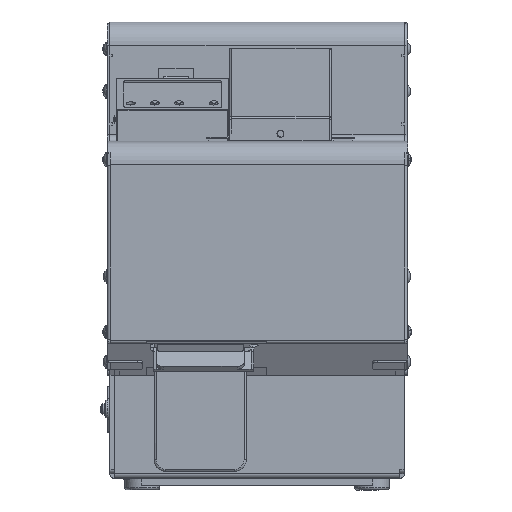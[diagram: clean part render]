
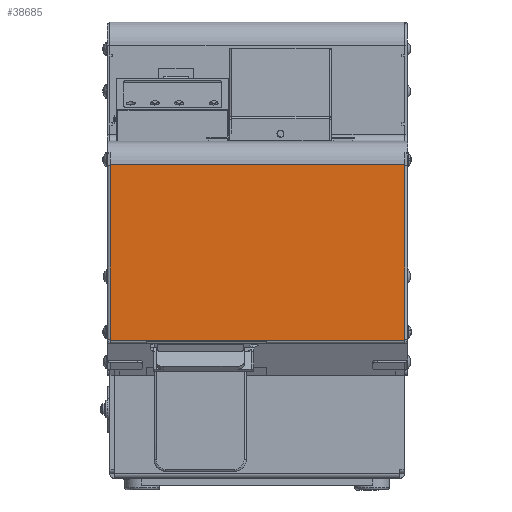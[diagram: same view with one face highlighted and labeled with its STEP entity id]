
A CAD part, front view. The second image highlights one B-rep face of the part: STEP entity #38685.
In plain terms, the highlighted planar face has unit normal (0, -1, 0).
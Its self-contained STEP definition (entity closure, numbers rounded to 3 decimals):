
#1282=PLANE('',#41814);
#3085=FACE_OUTER_BOUND('',#5329,.T.);
#5329=EDGE_LOOP('',(#30100,#30101,#30102,#30103,#30104,#30105,#30106,#30107,
#30108,#30109,#30110,#30111));
#8721=LINE('',#56582,#12313);
#8783=LINE('',#56743,#12375);
#8821=LINE('',#56852,#12413);
#8960=LINE('',#57214,#12552);
#8968=LINE('',#57238,#12560);
#10272=LINE('',#61093,#13864);
#10276=LINE('',#61101,#13868);
#10277=LINE('',#61103,#13869);
#10278=LINE('',#61104,#13870);
#10279=LINE('',#61106,#13871);
#10280=LINE('',#61108,#13872);
#10281=LINE('',#61109,#13873);
#12313=VECTOR('',#45356,0.609);
#12375=VECTOR('',#45460,0.019);
#12413=VECTOR('',#45568,0.609);
#12552=VECTOR('',#45889,0.5);
#12560=VECTOR('',#45913,127.6);
#13864=VECTOR('',#49859,59.9);
#13868=VECTOR('',#49867,75.21);
#13869=VECTOR('',#49868,0.5);
#13870=VECTOR('',#49869,75.21);
#13871=VECTOR('',#49870,15.7);
#13872=VECTOR('',#49871,0.019);
#13873=VECTOR('',#49872,52.);
#15965=VERTEX_POINT('',#56579);
#15966=VERTEX_POINT('',#56581);
#16043=VERTEX_POINT('',#56740);
#16044=VERTEX_POINT('',#56742);
#16079=VERTEX_POINT('',#56849);
#16080=VERTEX_POINT('',#56851);
#16211=VERTEX_POINT('',#57211);
#16212=VERTEX_POINT('',#57213);
#16220=VERTEX_POINT('',#57236);
#17453=VERTEX_POINT('',#61102);
#17454=VERTEX_POINT('',#61105);
#17455=VERTEX_POINT('',#61107);
#19748=EDGE_CURVE('',#15966,#15965,#8721,.T.);
#19829=EDGE_CURVE('',#16044,#16043,#8783,.T.);
#19885=EDGE_CURVE('',#16080,#16079,#8821,.T.);
#20066=EDGE_CURVE('',#16212,#16211,#8960,.T.);
#20078=EDGE_CURVE('',#16220,#16211,#8968,.T.);
#21977=EDGE_CURVE('',#15966,#16043,#10272,.T.);
#21981=EDGE_CURVE('',#16212,#15965,#10276,.T.);
#21982=EDGE_CURVE('',#16220,#17453,#10277,.T.);
#21983=EDGE_CURVE('',#16080,#17453,#10278,.T.);
#21984=EDGE_CURVE('',#17454,#16079,#10279,.T.);
#21985=EDGE_CURVE('',#17454,#17455,#10280,.T.);
#21986=EDGE_CURVE('',#17455,#16044,#10281,.T.);
#30100=ORIENTED_EDGE('',*,*,#21977,.F.);
#30101=ORIENTED_EDGE('',*,*,#19748,.T.);
#30102=ORIENTED_EDGE('',*,*,#21981,.F.);
#30103=ORIENTED_EDGE('',*,*,#20066,.T.);
#30104=ORIENTED_EDGE('',*,*,#20078,.F.);
#30105=ORIENTED_EDGE('',*,*,#21982,.T.);
#30106=ORIENTED_EDGE('',*,*,#21983,.F.);
#30107=ORIENTED_EDGE('',*,*,#19885,.T.);
#30108=ORIENTED_EDGE('',*,*,#21984,.F.);
#30109=ORIENTED_EDGE('',*,*,#21985,.T.);
#30110=ORIENTED_EDGE('',*,*,#21986,.T.);
#30111=ORIENTED_EDGE('',*,*,#19829,.T.);
#38685=ADVANCED_FACE('',(#3085),#1282,.T.);
#41814=AXIS2_PLACEMENT_3D('',#61100,#49865,#49866);
#45356=DIRECTION('',(0.,0.,1.));
#45460=DIRECTION('',(0.,0.,-1.));
#45568=DIRECTION('',(0.,0.,-1.));
#45889=DIRECTION('',(0.,0.,1.));
#45913=DIRECTION('',(1.,0.,0.));
#49859=DIRECTION('',(-1.,0.,0.));
#49865=DIRECTION('center_axis',(0.,-1.,0.));
#49866=DIRECTION('ref_axis',(1.,0.,0.));
#49867=DIRECTION('',(0.,0.,-1.));
#49868=DIRECTION('',(0.,0.,-1.));
#49869=DIRECTION('',(0.,0.,1.));
#49870=DIRECTION('',(-1.,0.,0.));
#49871=DIRECTION('',(0.,0.,1.));
#49872=DIRECTION('',(1.,0.,0.));
#56579=CARTESIAN_POINT('',(127.7,-112.032,-188.731));
#56581=CARTESIAN_POINT('',(127.7,-112.032,-189.34));
#56582=CARTESIAN_POINT('',(127.7,-112.032,-189.34));
#56740=CARTESIAN_POINT('',(67.8,-112.032,-189.34));
#56742=CARTESIAN_POINT('',(67.8,-112.032,-189.321));
#56743=CARTESIAN_POINT('',(67.8,-112.032,-189.321));
#56849=CARTESIAN_POINT('',(0.1,-112.032,-189.34));
#56851=CARTESIAN_POINT('',(0.1,-112.032,-188.731));
#56852=CARTESIAN_POINT('',(0.1,-112.032,-188.731));
#57211=CARTESIAN_POINT('',(127.7,-112.032,-113.021));
#57213=CARTESIAN_POINT('',(127.7,-112.032,-113.521));
#57214=CARTESIAN_POINT('',(127.7,-112.032,-113.521));
#57236=CARTESIAN_POINT('',(0.1,-112.032,-113.021));
#57238=CARTESIAN_POINT('',(0.1,-112.032,-113.021));
#61093=CARTESIAN_POINT('',(127.7,-112.032,-189.34));
#61100=CARTESIAN_POINT('Origin',(128.8,-112.032,-103.021));
#61101=CARTESIAN_POINT('',(127.7,-112.032,-113.521));
#61102=CARTESIAN_POINT('',(0.1,-112.032,-113.521));
#61103=CARTESIAN_POINT('',(0.1,-112.032,-113.021));
#61104=CARTESIAN_POINT('',(0.1,-112.032,-188.731));
#61105=CARTESIAN_POINT('',(15.8,-112.032,-189.34));
#61106=CARTESIAN_POINT('',(15.8,-112.032,-189.34));
#61107=CARTESIAN_POINT('',(15.8,-112.032,-189.321));
#61108=CARTESIAN_POINT('',(15.8,-112.032,-189.34));
#61109=CARTESIAN_POINT('',(15.8,-112.032,-189.321));
